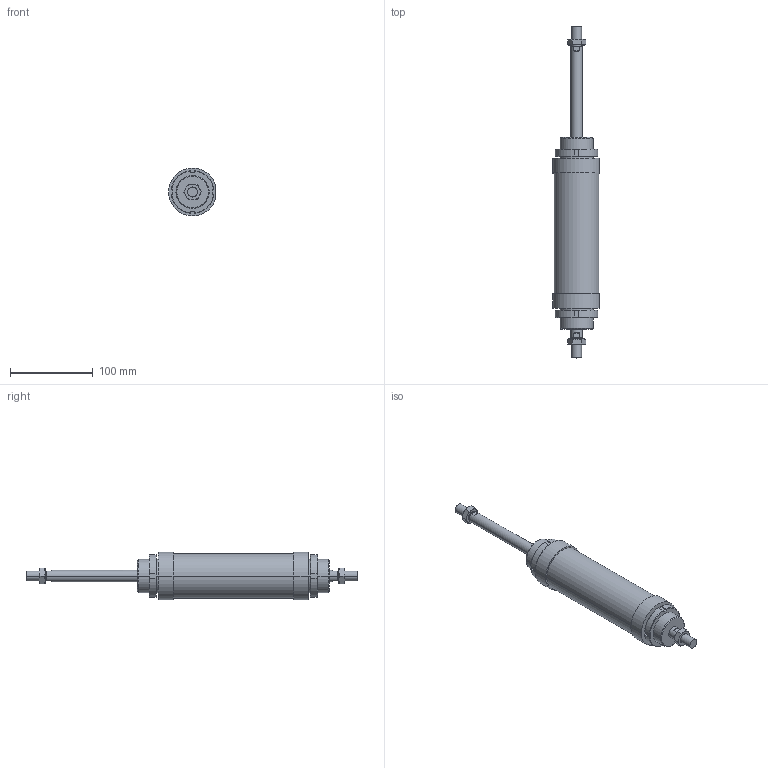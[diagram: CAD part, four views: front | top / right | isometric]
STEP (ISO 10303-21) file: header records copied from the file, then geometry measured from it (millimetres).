
FILE_DESCRIPTION((''),'2;1');
FILE_NAME('I:\DOC-EDP\Lib-3d\1200\CILINDRI\1262\1262_50_0100.stp','2003-04-02T19:15:42',('maffial1'),(''),'Autodesk Inventor (R) 6.0','Autodesk Inventor (R) 6.0','');
FILE_SCHEMA(('AUTOMOTIVE_DESIGN { 1 0 10303 214 1 1 1 1 }'));
Length unit declared in the file: millimetre
Products named in the file (5): 1262_50_0100; S1262_50_100; C1262_50_100; 1200_50_05; 1200_50_06
Assembly tree (6 placements, depth 2):
  1262_50_0100
    S1262_50_100
    C1262_50_100
    1200_50_05  x2
    1200_50_06  x2
Bounding box: 56.6 x 402 x 57.85 mm (x, y, z)
Volume: 532037.1 mm3; surface area: 82741.4 mm2
Topology: 6 solids, 6 shells, 182 faces, 424 edges, 264 vertices
Faces by surface type: plane 66, cone 56, cylinder 30, bspline 30
Entity records: 3737 total; most frequent: CARTESIAN_POINT 969, DIRECTION 572, ORIENTED_EDGE 548, EDGE_CURVE 274, AXIS2_PLACEMENT_3D 227, VERTEX_POINT 172, EDGE_LOOP 136, FACE_OUTER_BOUND 120
